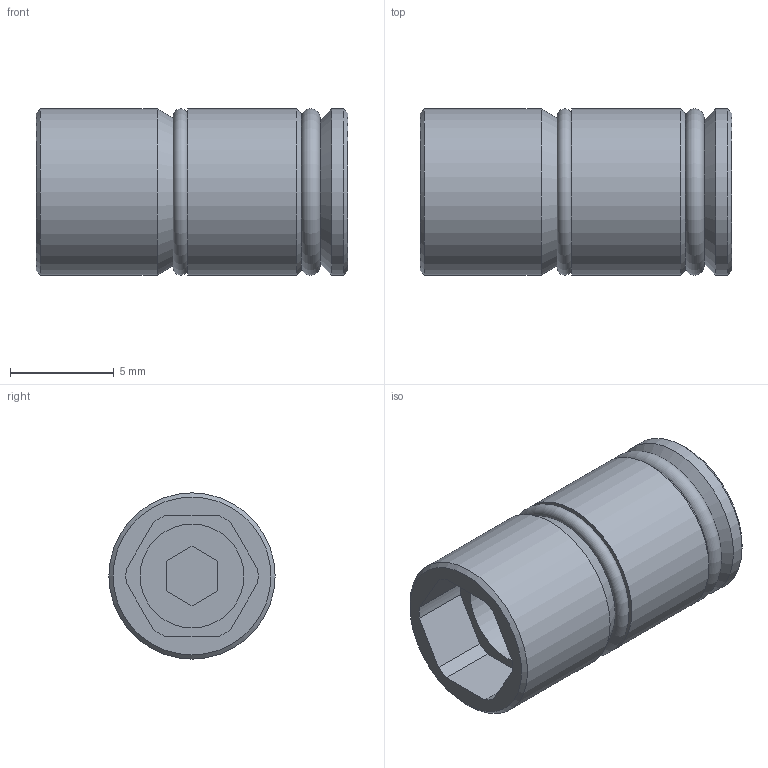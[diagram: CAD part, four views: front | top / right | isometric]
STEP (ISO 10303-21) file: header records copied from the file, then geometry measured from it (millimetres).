
FILE_DESCRIPTION( ( 'STEP AP214' ), '1' );
FILE_NAME( 'p:/temp/worker_257/temp/exporttempdir_4644_182_8vMPM/format_0/TRI-8L.stp', '2021-02-05T19:24:05', ( 'License CC BY-ND 4.0' ), ( 'CADENAS' ), ' ', 'PARTsolutions', ' ' );
FILE_SCHEMA( ( 'AUTOMOTIVE_DESIGN { 1 0 10303 214 1 1 1 1 }' ) );
Length unit declared in the file: millimetre
Products named in the file (1): _TRI-8L
Bounding box: 15 x 8 x 8 mm (x, y, z)
Volume: 603.9 mm3; surface area: 641.9 mm2
Topology: 1 solids, 1 shells, 36 faces, 80 edges, 51 vertices
Faces by surface type: plane 19, cylinder 10, cone 5, torus 2
Full cylindrical faces by diameter (mm): 5 x1, 8 x3
Entity records: 1252 total; most frequent: DIRECTION 170, CARTESIAN_POINT 159, ORIENTED_EDGE 138, EDGE_CURVE 69, AXIS2_PLACEMENT_3D 64, VERTEX_POINT 53, EDGE_LOOP 52, FACE_OUTER_BOUND 42
